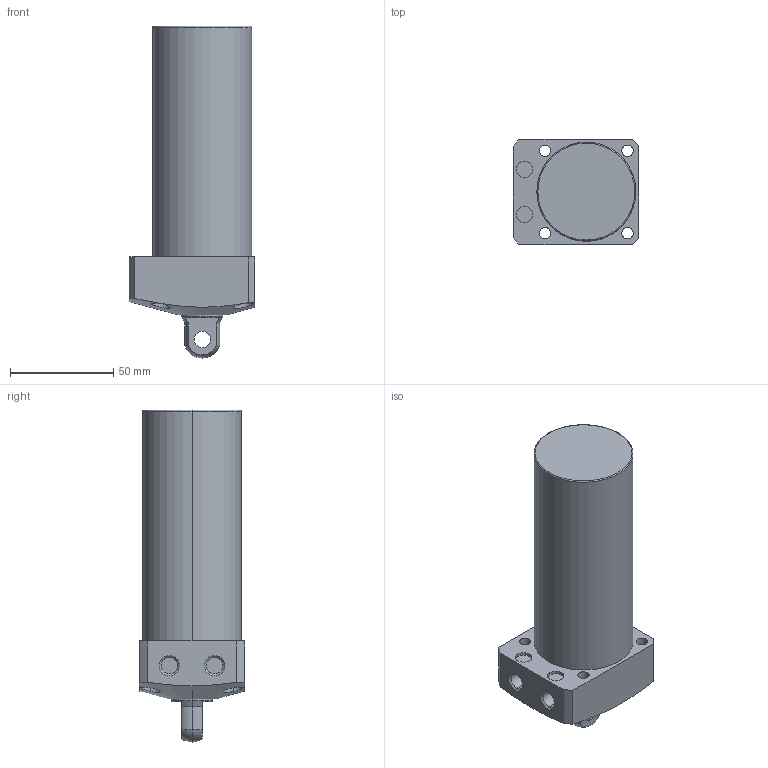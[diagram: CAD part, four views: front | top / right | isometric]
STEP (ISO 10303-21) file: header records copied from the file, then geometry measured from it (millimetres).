
FILE_DESCRIPTION (( 'STEP AP203' ), '1' );
FILE_NAME ('CLL048-CP-085.STEP', '2017-05-17T10:30:16', ( '' ), ( '' ), 'SwSTEP 2.0', 'SolidWorks 2015', '' );
FILE_SCHEMA (( 'CONFIG_CONTROL_DESIGN' ));
Length unit declared in the file: millimetre
Products named in the file (1): CLL048-CP-085
Bounding box: 61 x 51 x 161 mm (x, y, z)
Volume: 278008.3 mm3; surface area: 31708.6 mm2
Topology: 1 solids, 1 shells, 68 faces, 159 edges, 103 vertices
Faces by surface type: cylinder 35, plane 21, cone 8, sphere 2, torus 2
Entity records: 2390 total; most frequent: CARTESIAN_POINT 693, DIRECTION 357, ORIENTED_EDGE 318, EDGE_CURVE 159, AXIS2_PLACEMENT_3D 149, VERTEX_POINT 103, EDGE_LOOP 88, CIRCLE 80
